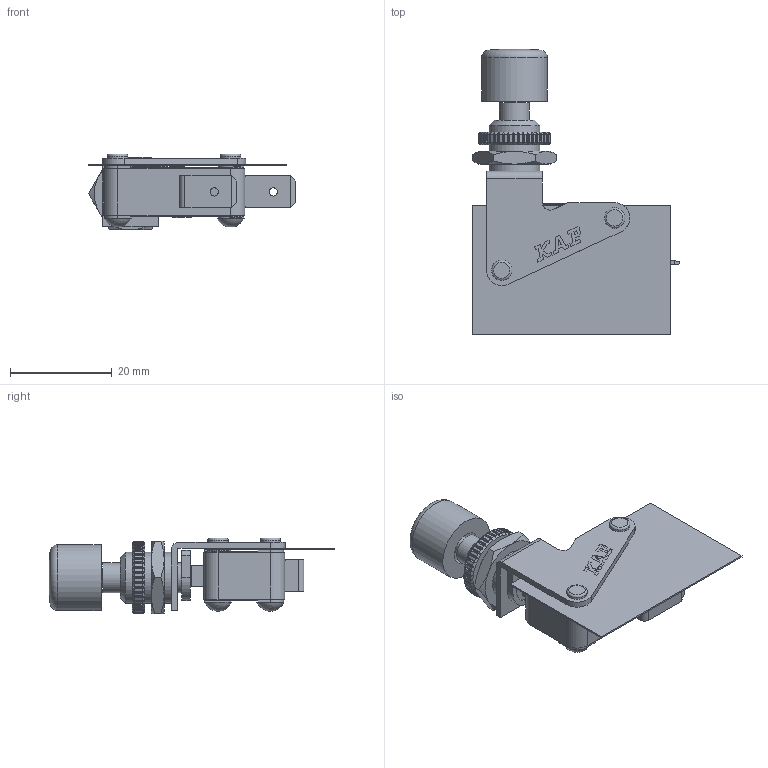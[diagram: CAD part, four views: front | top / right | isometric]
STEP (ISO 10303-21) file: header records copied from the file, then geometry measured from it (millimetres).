
FILE_DESCRIPTION(('Microrutor Miniatura Mecanismo Acao Lenta c/ Ruptura Positiva Contato NF Atuador de Botao p/ Acionamento Manual Terminal Faston 6.3'),'2;1');
FILE_NAME('E:\WorkFolder\Bibl\3DWeb\kp_mv_mvkbea$_step.stp','2019-11-26T08:11:31',('DIE'),('KAP Componentes Eletricos Ltda.'),'Autodesk Inventor 2011','Autodesk Inventor 2011','Direitos reservados. Proibido reproducao, cedencia ou revelacao de conteudo a terceiros, salvo com autorizacao.');
FILE_SCHEMA(('AUTOMOTIVE_DESIGN { 1 0 10303 214 1 1 1 1 }'));
Length unit declared in the file: millimetre
Products named in the file (3): MVKBEA$; MV_Atuador_BK; MVKAEA$
Assembly tree (2 placements, depth 2):
  MVKBEA$
    MV_Atuador_BK
    MVKAEA$
Bounding box: 40.8 x 56.23 x 14.94 mm (x, y, z)
Volume: 8067.1 mm3; surface area: 7123 mm2
Topology: 4 solids, 4 shells, 688 faces, 1901 edges, 1265 vertices
Faces by surface type: plane 419, cylinder 248, cone 15, sphere 3, torus 3
Full cylindrical faces by diameter (mm): 1.6 x2, 3.1 x3, 3.4 x1, 4 x2, 4.2 x1, 5.9 x2, 6.6 x1, 7 x1, 10 x1, 10.1 x2, 13 x1
Entity records: 24023 total; most frequent: CARTESIAN_POINT 7016, ORIENTED_EDGE 3738, DIRECTION 3029, EDGE_CURVE 1869, VERTEX_POINT 1256, VECTOR 1147, LINE 1147, AXIS2_PLACEMENT_3D 941
